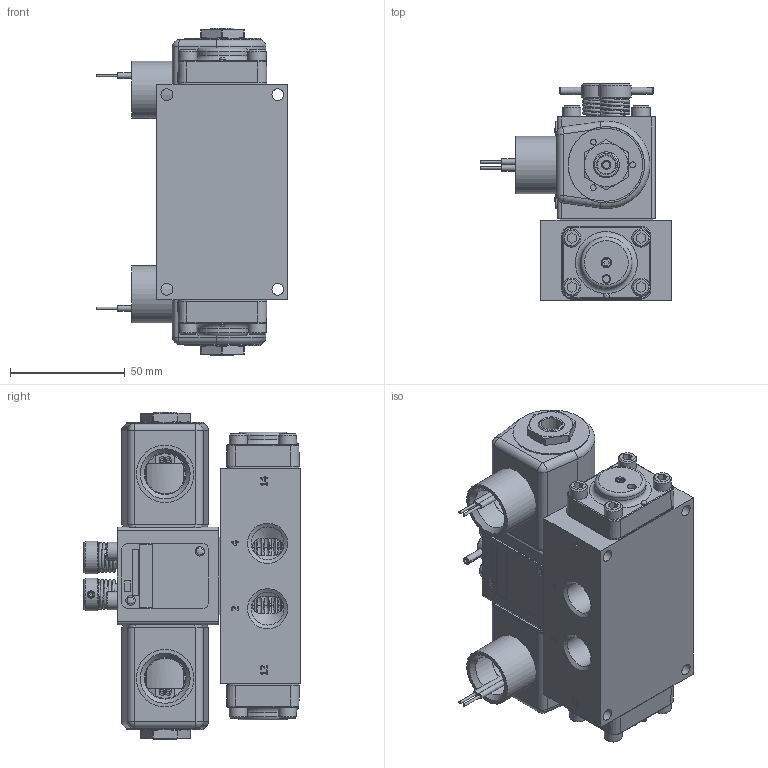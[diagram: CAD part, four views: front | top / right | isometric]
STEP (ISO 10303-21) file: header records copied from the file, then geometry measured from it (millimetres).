
FILE_DESCRIPTION(/* description */ (''),/* implementation_level */ '2;1');
FILE_NAME(/* name */ 'D:\Website New\Valves\Classic\SY\stp\SY3ONT.stp',/* time_stamp */ '2020-05-03T10:45:40-04:00',/* author */ ('RMcKenna'),/* organization */ (''),/* preprocessor_version */ 'ST-DEVELOPER v17',/* originating_system */ 'Autodesk Inventor 2018',/* authorisation */ '');
FILE_SCHEMA (('AUTOMOTIVE_DESIGN { 1 0 10303 214 3 1 1 }'));
Products named in the file (1): Part34
Bounding box: 83.65 x 94.58 x 142.88 mm (x, y, z)
Volume: 356063.1 mm3; surface area: 143103.2 mm2
Topology: 4 solids, 39 shells, 2005 faces, 5069 edges, 3299 vertices
Faces by surface type: plane 904, cylinder 450, cone 330, torus 159, bspline 150, sphere 12
Full cylindrical faces by diameter (mm): 1.041 x2, 1.168 x4, 1.321 x2, 1.397 x2, 1.727 x6, 2.07 x2, 2.261 x2, 2.35 x2, 2.54 x4, 2.778 x2, 3.048 x4, 3.175 x8, 3.302 x2, 3.683 x14, 3.912 x1, 3.962 x2, 4.366 x9, 4.826 x16, 5.156 x12, 5.159 x5, 5.537 x7, 5.639 x2, 6.629 x4, 7.938 x12, 7.95 x3, 9.144 x2, 9.474 x10, 9.525 x3, 9.728 x1, 9.83 x2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
Entity records: 69698 total; most frequent: CARTESIAN_POINT 19964, ORIENTED_EDGE 10070, DIRECTION 9835, EDGE_CURVE 5035, AXIS2_PLACEMENT_3D 3705, VERTEX_POINT 3299, LINE 2425, VECTOR 2425
